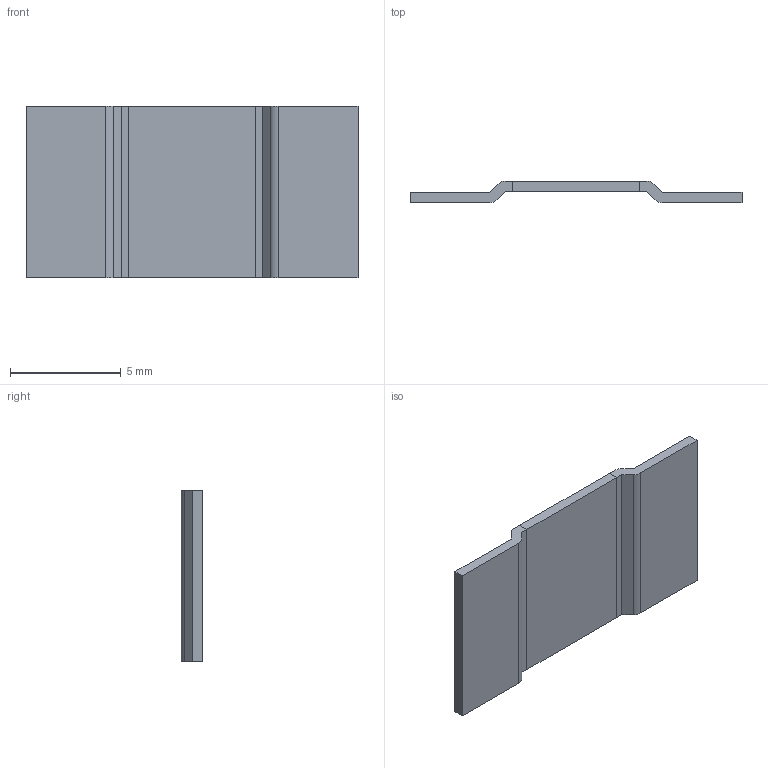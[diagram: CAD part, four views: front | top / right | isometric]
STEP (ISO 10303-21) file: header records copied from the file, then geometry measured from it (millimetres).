
FILE_DESCRIPTION (( 'STEP AP203' ), '1' );
FILE_NAME ('5930-0.8m次.STEP', '2023-11-22T08:00:01', ( 'meks@163.com' ), ( '' ), 'SwSTEP 2.0', 'SolidWorks 2020', '' );
FILE_SCHEMA (( 'CONFIG_CONTROL_DESIGN' ));
Length unit declared in the file: millimetre
Products named in the file (1): 5930-0.8m次
Bounding box: 15 x 0.97 x 7.75 mm (x, y, z)
Volume: 56 mm3; surface area: 274.6 mm2
Topology: 3 solids, 3 shells, 30 faces, 72 edges, 48 vertices
Faces by surface type: plane 26, cylinder 4
Entity records: 937 total; most frequent: CARTESIAN_POINT 151, ORIENTED_EDGE 144, DIRECTION 142, EDGE_CURVE 72, LINE 64, VECTOR 64, VERTEX_POINT 48, AXIS2_PLACEMENT_3D 39
